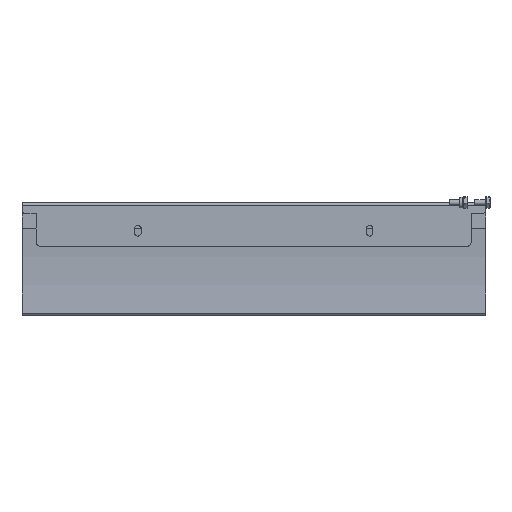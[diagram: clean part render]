
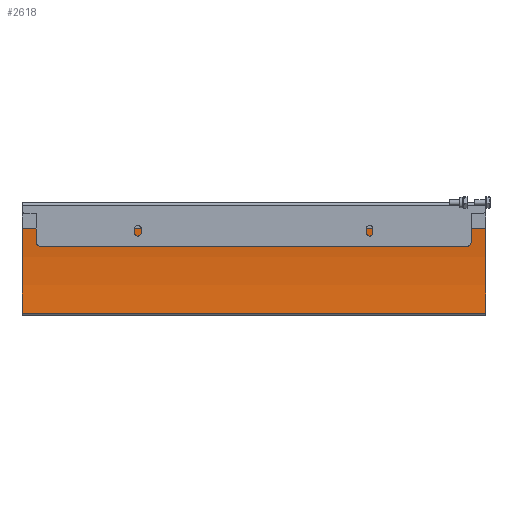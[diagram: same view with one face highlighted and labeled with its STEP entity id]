
A CAD part, top view. The second image highlights one B-rep face of the part: STEP entity #2618.
In plain terms, the highlighted cylindrical face has radius 381 mm (diameter 762 mm), a partial arc.
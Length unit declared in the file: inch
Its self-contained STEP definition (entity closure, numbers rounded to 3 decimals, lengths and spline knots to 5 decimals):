
#231=FACE_OUTER_BOUND('',#376,.T.);
#376=EDGE_LOOP('',(#1960,#1961,#1962,#1963));
#553=LINE('',#4188,#797);
#568=LINE('',#4224,#812);
#797=VECTOR('',#3365,0.3937);
#812=VECTOR('',#3402,0.3937);
#1000=CIRCLE('',#2936,15.);
#1007=CIRCLE('',#2953,15.);
#1157=VERTEX_POINT('',#4154);
#1158=VERTEX_POINT('',#4156);
#1171=VERTEX_POINT('',#4186);
#1181=VERTEX_POINT('',#4222);
#1445=EDGE_CURVE('',#1158,#1157,#1000,.T.);
#1461=EDGE_CURVE('',#1171,#1157,#553,.T.);
#1478=EDGE_CURVE('',#1171,#1181,#1007,.T.);
#1479=EDGE_CURVE('',#1158,#1181,#568,.T.);
#1960=ORIENTED_EDGE('',*,*,#1461,.F.);
#1961=ORIENTED_EDGE('',*,*,#1478,.T.);
#1962=ORIENTED_EDGE('',*,*,#1479,.F.);
#1963=ORIENTED_EDGE('',*,*,#1445,.T.);
#2538=CYLINDRICAL_SURFACE('',#2952,15.);
#2618=ADVANCED_FACE('',(#231),#2538,.F.);
#2936=AXIS2_PLACEMENT_3D('',#4157,#3340,#3341);
#2952=AXIS2_PLACEMENT_3D('',#4221,#3398,#3399);
#2953=AXIS2_PLACEMENT_3D('',#4223,#3400,#3401);
#3340=DIRECTION('center_axis',(0.,0.,1.));
#3341=DIRECTION('ref_axis',(0.1,0.995,0.));
#3365=DIRECTION('',(0.,0.,1.));
#3398=DIRECTION('center_axis',(0.,0.,1.));
#3399=DIRECTION('ref_axis',(0.1,0.995,0.));
#3400=DIRECTION('center_axis',(0.,0.,-1.));
#3401=DIRECTION('ref_axis',(0.1,0.995,0.));
#3402=DIRECTION('',(0.,0.,-1.));
#4154=CARTESIAN_POINT('',(3.80654,0.30578,16.));
#4156=CARTESIAN_POINT('',(0.875,0.3125,16.));
#4157=CARTESIAN_POINT('Origin',(2.375,15.23731,16.));
#4186=CARTESIAN_POINT('',(3.80654,0.30578,0.));
#4188=CARTESIAN_POINT('',(3.80654,0.30578,0.));
#4221=CARTESIAN_POINT('Origin',(2.375,15.23731,0.));
#4222=CARTESIAN_POINT('',(0.875,0.3125,0.));
#4223=CARTESIAN_POINT('Origin',(2.375,15.23731,0.));
#4224=CARTESIAN_POINT('',(0.875,0.3125,0.));
